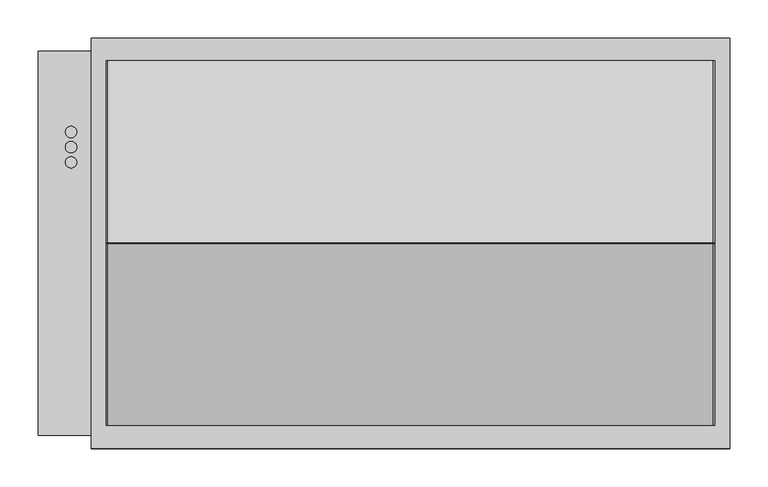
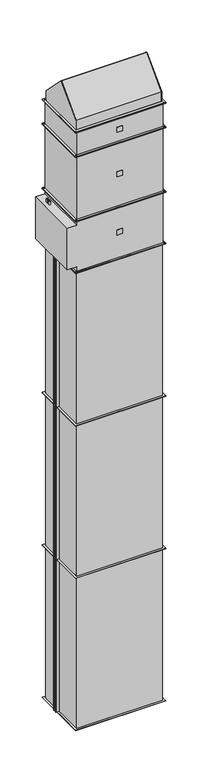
"""IFC4 building model written with IfcOpenShell, lengths in millimetres: proxy geometry, KORF_Завеса_ЭлектрическийНагрев_PWZ_C : PWZ-C 80-50 E."""

import ifcopenshell
import ifcopenshell.guid

model = None  # the IFC model being written
_history = None  # IfcOwnerHistory: only IFC2X3 demands one
_inside = {}  # id of a spatial element -> (the spatial element, [elements in it])
_under = {}  # id of a project, library or spatial element -> (it, [spatial elements below it])
_declared = {}  # id of a project -> (the project, [libraries it declares])
_typed = {}  # id of a type object -> (the type object, [elements of that type])
_made_of = {}  # id of a material, layer set ... -> (it, [elements and type objects made of it])


def new_model(schema):
    """Start an empty IFC model of exactly this schema.

    Asked for "IFC4X3", IfcOpenShell would pick the latest addendum, in which some entities
    have other attributes; the version numbers below select the first issue.
    IFC2X3 requires an IfcOwnerHistory on every rooted entity: one is made here for all.
    """
    global model, _history
    if schema == "IFC4X3":
        model = ifcopenshell.file(schema_version=(4, 3, 0, 0))
    else:
        model = ifcopenshell.file(schema=schema)
    _inside.clear()
    _under.clear()
    _declared.clear()
    _typed.clear()
    _made_of.clear()
    _history = None
    if model.schema == "IFC2X3":
        org = make("IfcOrganization", Name="unknown")
        user = make(
            "IfcPersonAndOrganization",
            ThePerson=make("IfcPerson", FamilyName="unknown"),
            TheOrganization=org,
        )
        app = make(
            "IfcApplication",
            ApplicationDeveloper=org,
            Version="unknown",
            ApplicationFullName="unknown",
            ApplicationIdentifier="unknown",
        )
        _history = make(
            "IfcOwnerHistory",
            OwningUser=user,
            OwningApplication=app,
            ChangeAction="ADDED",
            CreationDate=0,
        )
    return model


def make(cls, **values):
    """One entity of the class cls with the attributes given. An attribute that is None is left unset."""
    return model.create_entity(
        cls, **{name: value for name, value in values.items() if value is not None}
    )


def rooted(cls, **values):
    """An entity with a GlobalId (a new one), such as an element, a storey or a relation."""
    return make(cls, GlobalId=ifcopenshell.guid.new(), OwnerHistory=_history, **values)


def si_unit(unit_type, name, prefix=None):
    """IfcSIUnit, for example si_unit("LENGTHUNIT", "METRE", prefix="MILLI")."""
    return make("IfcSIUnit", UnitType=unit_type, Prefix=prefix, Name=name)


def assignment(units):
    """IfcUnitAssignment: the units of a project."""
    return None if units is None else make("IfcUnitAssignment", Units=units)


def point(xyz):
    """IfcCartesianPoint."""
    return None if xyz is None else make("IfcCartesianPoint", Coordinates=xyz)


def direction(xyz):
    """IfcDirection."""
    return None if xyz is None else make("IfcDirection", DirectionRatios=xyz)


def frame(location, z_axis=None, x_axis=None):
    """IfcAxis2Placement3D, a coordinate frame: its origin and axes. An axis left out is left unset."""
    return make(
        "IfcAxis2Placement3D",
        Location=point(location),
        Axis=direction(z_axis),
        RefDirection=direction(x_axis),
    )


def frame_2d(location, x_axis=None):
    """IfcAxis2Placement2D, a coordinate frame in the plane: its origin and x axis."""
    return make(
        "IfcAxis2Placement2D", Location=point(location), RefDirection=direction(x_axis)
    )


def origin():
    """The frame at (0, 0, 0) with its axes left unset."""
    return frame((0.0, 0.0, 0.0))


def origin_with_axes():
    """The frame at (0, 0, 0) with the z axis (0, 0, 1) and the x axis (1, 0, 0) written out."""
    return frame((0.0, 0.0, 0.0), z_axis=(0.0, 0.0, 1.0), x_axis=(1.0, 0.0, 0.0))


def place(relative_to, where):
    """IfcLocalPlacement: puts the frame where relative to a parent placement (None: the world)."""
    return make(
        "IfcLocalPlacement", PlacementRelTo=relative_to, RelativePlacement=where
    )


def context(
    kind, dimensions, precision=None, world=None, true_north=None, identifier=None
):
    """IfcGeometricRepresentationContext, for example the 3D "Model" context."""
    return make(
        "IfcGeometricRepresentationContext",
        ContextIdentifier=identifier,
        ContextType=kind,
        CoordinateSpaceDimension=dimensions,
        Precision=precision,
        WorldCoordinateSystem=world,
        TrueNorth=true_north,
    )


def project(units=None, contexts=None):
    """IfcProject with its units and contexts."""
    return rooted(
        "IfcProject",
        Name="project",
        RepresentationContexts=contexts,
        UnitsInContext=assignment(units),
    )


def spatial(cls, under=None, at=None, **own):
    """A site, building, storey or space (cls), placed at a placement, below another one or the project."""
    s = rooted(cls, ObjectPlacement=at, **own)
    if under is not None:
        _under.setdefault(under.id(), (under, []))[1].append(s)
    return s


def polyline(points):
    """IfcPolyline through the points."""
    return make("IfcPolyline", Points=[point(p) for p in points])


def circle_curve(where, radius):
    """IfcCircle in the frame where."""
    return make("IfcCircle", Position=where, Radius=radius)


def trimmed(basis, trim1, trim2, sense, master):
    """IfcTrimmedCurve: the piece of a basis curve between two trims."""
    return make(
        "IfcTrimmedCurve",
        BasisCurve=basis,
        Trim1=trim1,
        Trim2=trim2,
        SenseAgreement=sense,
        MasterRepresentation=master,
    )


def segment(curve, same_sense, transition):
    """IfcCompositeCurveSegment."""
    return make(
        "IfcCompositeCurveSegment",
        Transition=transition,
        SameSense=same_sense,
        ParentCurve=curve,
    )


def composite_curve(segments, self_intersect=None):
    """IfcCompositeCurve: segments joined end to end."""
    return make("IfcCompositeCurve", Segments=segments, SelfIntersect=self_intersect)


def outline(outer, holes=None, kind="AREA"):
    """IfcArbitraryClosedProfileDef: a profile drawn as a closed curve; with holes, ...WithVoids."""
    if holes is None:
        return make("IfcArbitraryClosedProfileDef", ProfileType=kind, OuterCurve=outer)
    return make(
        "IfcArbitraryProfileDefWithVoids",
        ProfileType=kind,
        OuterCurve=outer,
        InnerCurves=holes,
    )


def extrude(swept, where, along, depth):
    """IfcExtrudedAreaSolid: the profile swept, set in the frame where, extruded along a direction by depth."""
    return make(
        "IfcExtrudedAreaSolid",
        SweptArea=swept,
        Position=where,
        ExtrudedDirection=direction(along),
        Depth=depth,
    )


def shape(context_of_items, identifier, shape_type, items):
    """IfcShapeRepresentation: the items that make up one representation, for example the "Body"."""
    return make(
        "IfcShapeRepresentation",
        ContextOfItems=context_of_items,
        RepresentationIdentifier=identifier,
        RepresentationType=shape_type,
        Items=items,
    )


def source(mapping_origin, context_of_items, identifier, shape_type, items):
    """IfcRepresentationMap: a shape defined once, which mapped items show again and again."""
    return make(
        "IfcRepresentationMap",
        MappingOrigin=mapping_origin,
        MappedRepresentation=shape(context_of_items, identifier, shape_type, items),
    )


def transform(
    local_origin,
    x_axis=None,
    y_axis=None,
    z_axis=None,
    scale=None,
    scale2=None,
    scale3=None,
    uniform=True,
):
    """IfcCartesianTransformationOperator3D, or its non-uniform kind. x_axis, y_axis, z_axis: its Axis1, 2, 3."""
    if uniform:
        return make(
            "IfcCartesianTransformationOperator3D",
            Axis1=direction(x_axis),
            Axis2=direction(y_axis),
            LocalOrigin=point(local_origin),
            Scale=scale,
            Axis3=direction(z_axis),
        )
    return make(
        "IfcCartesianTransformationOperator3DnonUniform",
        Axis1=direction(x_axis),
        Axis2=direction(y_axis),
        LocalOrigin=point(local_origin),
        Scale=scale,
        Axis3=direction(z_axis),
        Scale2=scale2,
        Scale3=scale3,
    )


def mapped(mapping_source, mapping_target):
    """IfcMappedItem: shows the shape of a source again, moved by a transform."""
    return make(
        "IfcMappedItem", MappingSource=mapping_source, MappingTarget=mapping_target
    )


def made_of(thing, what):
    """Note that an element or type object is made of a material, layer set ...; save() writes the relation."""
    if what is not None:
        _made_of.setdefault(what.id(), (what, []))[1].append(thing)
    return thing


def element(
    cls,
    number,
    at=None,
    inside=None,
    cuts=None,
    type_object=None,
    material=None,
    context=None,
    identifier="Body",
    shape_type=None,
    held_by="IfcProductDefinitionShape",
    body=None,
    shapes=None,
    **own,
):
    """One element of the class cls, such as IfcWall. Its Tag is "e" and its number.

    at: its placement. inside: the storey or other place that contains it. cuts: it is an
    opening in that element (IfcRelVoidsElement). A single representation is given by context,
    identifier, shape_type and body (its items); several are given by shapes. held_by: the class
    of the entity that holds the representations. save() writes the other relations.
    """
    e = rooted(cls, Tag="e%d" % number, ObjectPlacement=at, **own)
    if body is not None:
        shapes = [shape(context, identifier, shape_type, body)]
    if shapes is not None:
        e.Representation = make(held_by, Representations=shapes)
    if inside is not None:
        _inside.setdefault(inside.id(), (inside, []))[1].append(e)
    if cuts is not None:
        rooted(
            "IfcRelVoidsElement", RelatingBuildingElement=cuts, RelatedOpeningElement=e
        )
    if type_object is not None:
        _typed.setdefault(type_object.id(), (type_object, []))[1].append(e)
    return made_of(e, material)


def aggregate(whole, parts):
    """IfcRelAggregates: a whole, such as a stair, and the parts it consists of."""
    return rooted("IfcRelAggregates", RelatingObject=whole, RelatedObjects=parts)


def save(model, path):
    """Write the relations noted so far, then the file.

    IfcRelAggregates (storeys below a building ...), IfcRelContainedInSpatialStructure (elements
    in a storey), IfcRelDefinesByType, IfcRelAssociatesMaterial and IfcRelDeclares: one each for
    every whole, place, type object, material and project.
    """
    for whole, parts in _under.values():
        aggregate(whole, parts)
    for where, things in _inside.values():
        rooted(
            "IfcRelContainedInSpatialStructure",
            RelatedElements=things,
            RelatingStructure=where,
        )
    for kind, things in _typed.values():
        rooted("IfcRelDefinesByType", RelatedObjects=things, RelatingType=kind)
    for what, things in _made_of.values():
        rooted("IfcRelAssociatesMaterial", RelatedObjects=things, RelatingMaterial=what)
    for by, libraries in _declared.values():
        rooted("IfcRelDeclares", RelatingContext=by, RelatedDefinitions=libraries)
    model.write(path)


def mechanical_equipment_f1a6d064(model_context):
    return source(origin(), model_context, "Body", "SweptSolid", [
        extrude(outline(polyline([(25.0, -255.0), (-25.0, -255.0), (-25.0, -253.0), (25.0, -253.0), (25.0, -255.0)])), frame((0.0, 0.0, 4730.0), z_axis=(0.0, 0.0, 1.0), x_axis=(1.0, 0.0, 0.0)), (0.0, 0.0, 1.0), 50.0),
        extrude(outline(composite_curve([segment(trimmed(circle_curve(frame_2d((-446.5, 126.5)), 7.5), [point((-439.0, 126.5))], [point((-454.0, 126.5))], False, "CARTESIAN"), True, "CONTINUOUS"), segment(trimmed(circle_curve(frame_2d((-446.5, 126.5)), 7.5), [point((-454.0, 126.5))], [point((-439.0, 126.5))], False, "CARTESIAN"), True, "CONTINUOUS")], self_intersect=False)), frame((0.0, 0.0, 4960.0), z_axis=(0.0, 0.0, 1.0), x_axis=(1.0, 0.0, 0.0)), (0.0, 0.0, 1.0), 30.0),
        extrude(outline(composite_curve([segment(trimmed(circle_curve(frame_2d((-446.5, 106.5)), 7.5), [point((-439.0, 106.5))], [point((-454.0, 106.5))], False, "CARTESIAN"), True, "CONTINUOUS"), segment(trimmed(circle_curve(frame_2d((-446.5, 106.5)), 7.5), [point((-454.0, 106.5))], [point((-439.0, 106.5))], False, "CARTESIAN"), True, "CONTINUOUS")], self_intersect=False)), frame((0.0, 0.0, 4960.0), z_axis=(0.0, 0.0, 1.0), x_axis=(1.0, 0.0, 0.0)), (0.0, 0.0, 1.0), 30.0),
        extrude(outline(composite_curve([segment(trimmed(circle_curve(frame_2d((-446.5, 146.5)), 7.5), [point((-439.0, 146.5))], [point((-454.0, 146.5))], False, "CARTESIAN"), True, "CONTINUOUS"), segment(trimmed(circle_curve(frame_2d((-446.5, 146.5)), 7.5), [point((-454.0, 146.5))], [point((-439.0, 146.5))], False, "CARTESIAN"), True, "CONTINUOUS")], self_intersect=False)), frame((0.0, 0.0, 4960.0), z_axis=(0.0, 0.0, 1.0), x_axis=(1.0, 0.0, 0.0)), (0.0, 0.0, 1.0), 30.0),
        extrude(outline(polyline([(-146.5, 4730.0), (-134.0, 4730.0), (-134.0, 4805.0), (-119.0, 4805.0), (-119.0, 4730.0), (-106.5, 4730.0), (-126.5, 4705.0), (-146.5, 4730.0)])), frame((403.0, 0.0, 0.0), z_axis=(1.0, 0.0, 0.0), x_axis=(0.0, 1.0, 0.0)), (0.0, 0.0, 1.0), 1.0),
        extrude(outline(polyline([(5005.0, 403.0), (5005.0, -403.0), (4960.0, -403.0), (4960.0, -490.0), (4550.0, -490.0), (4550.0, -403.0), (4505.0, -403.0), (4505.0, 403.0), (5005.0, 403.0)])), frame((0.0, -253.0, 0.0), z_axis=(0.0, 1.0, 0.0), x_axis=(0.0, 0.0, 1.0)), (0.0, 0.0, 1.0), 506.0),
        extrude(outline(polyline([(420.0, -270.0), (-420.0, -270.0), (-420.0, 270.0), (420.0, 270.0), (420.0, -270.0)]), holes=[polyline([(400.0, -250.0), (400.0, 250.0), (-400.0, 250.0), (-400.0, -250.0), (400.0, -250.0)]), composite_curve([segment(trimmed(circle_curve(frame_2d((-410.0, -260.0)), 4.5), [point((-405.5, -260.0))], [point((-414.5, -260.0))], True, "CARTESIAN"), True, "CONTINUOUS"), segment(trimmed(circle_curve(frame_2d((-410.0, -260.0)), 4.5), [point((-414.5, -260.0))], [point((-405.5, -260.0))], True, "CARTESIAN"), True, "CONTINUOUS")], self_intersect=False), composite_curve([segment(trimmed(circle_curve(frame_2d((410.0, -260.0)), 4.5), [point((414.5, -260.0))], [point((405.5, -260.0))], True, "CARTESIAN"), True, "CONTINUOUS"), segment(trimmed(circle_curve(frame_2d((410.0, -260.0)), 4.5), [point((405.5, -260.0))], [point((414.5, -260.0))], True, "CARTESIAN"), True, "CONTINUOUS")], self_intersect=False), composite_curve([segment(trimmed(circle_curve(frame_2d((410.0, 260.0)), 4.5), [point((414.5, 260.0))], [point((405.5, 260.0))], True, "CARTESIAN"), True, "CONTINUOUS"), segment(trimmed(circle_curve(frame_2d((410.0, 260.0)), 4.5), [point((405.5, 260.0))], [point((414.5, 260.0))], True, "CARTESIAN"), True, "CONTINUOUS")], self_intersect=False), composite_curve([segment(trimmed(circle_curve(frame_2d((-410.0, 260.0)), 4.5), [point((-405.5, 260.0))], [point((-414.5, 260.0))], True, "CARTESIAN"), True, "CONTINUOUS"), segment(trimmed(circle_curve(frame_2d((-410.0, 260.0)), 4.5), [point((-414.5, 260.0))], [point((-405.5, 260.0))], True, "CARTESIAN"), True, "CONTINUOUS")], self_intersect=False)]), frame((0.0, 0.0, 5005.0), z_axis=(0.0, 0.0, 1.0), x_axis=(1.0, 0.0, 0.0)), (0.0, 0.0, 1.0), 5.0),
        extrude(outline(polyline([(420.0, -270.0), (-420.0, -270.0), (-420.0, 270.0), (420.0, 270.0), (420.0, -270.0)]), holes=[polyline([(400.0, -250.0), (400.0, 250.0), (-400.0, 250.0), (-400.0, -250.0), (400.0, -250.0)]), composite_curve([segment(trimmed(circle_curve(frame_2d((-410.0, -260.0)), 4.5), [point((-405.5, -260.0))], [point((-414.5, -260.0))], True, "CARTESIAN"), True, "CONTINUOUS"), segment(trimmed(circle_curve(frame_2d((-410.0, -260.0)), 4.5), [point((-414.5, -260.0))], [point((-405.5, -260.0))], True, "CARTESIAN"), True, "CONTINUOUS")], self_intersect=False), composite_curve([segment(trimmed(circle_curve(frame_2d((410.0, -260.0)), 4.5), [point((414.5, -260.0))], [point((405.5, -260.0))], True, "CARTESIAN"), True, "CONTINUOUS"), segment(trimmed(circle_curve(frame_2d((410.0, -260.0)), 4.5), [point((405.5, -260.0))], [point((414.5, -260.0))], True, "CARTESIAN"), True, "CONTINUOUS")], self_intersect=False), composite_curve([segment(trimmed(circle_curve(frame_2d((410.0, 260.0)), 4.5), [point((414.5, 260.0))], [point((405.5, 260.0))], True, "CARTESIAN"), True, "CONTINUOUS"), segment(trimmed(circle_curve(frame_2d((410.0, 260.0)), 4.5), [point((405.5, 260.0))], [point((414.5, 260.0))], True, "CARTESIAN"), True, "CONTINUOUS")], self_intersect=False), composite_curve([segment(trimmed(circle_curve(frame_2d((-410.0, 260.0)), 4.5), [point((-405.5, 260.0))], [point((-414.5, 260.0))], True, "CARTESIAN"), True, "CONTINUOUS"), segment(trimmed(circle_curve(frame_2d((-410.0, 260.0)), 4.5), [point((-414.5, 260.0))], [point((-405.5, 260.0))], True, "CARTESIAN"), True, "CONTINUOUS")], self_intersect=False)]), frame((0.0, 0.0, 4500.0), z_axis=(0.0, 0.0, 1.0), x_axis=(1.0, 0.0, 0.0)), (0.0, 0.0, 1.0), 5.0),
        extrude(outline(polyline([(25.0, -255.0), (-25.0, -255.0), (-25.0, -253.0), (25.0, -253.0), (25.0, -255.0)])), frame((0.0, 0.0, 5741.0), z_axis=(0.0, 0.0, 1.0), x_axis=(1.0, 0.0, 0.0)), (0.0, 0.0, 1.0), 50.0),
        extrude(outline(polyline([(-420.0, -270.0), (-420.0, 270.0), (420.0, 270.0), (420.0, -270.0), (-420.0, -270.0)]), holes=[polyline([(-400.0, -250.0), (400.0, -250.0), (400.0, 250.0), (-400.0, 250.0), (-400.0, -250.0)]), composite_curve([segment(trimmed(circle_curve(frame_2d((410.0, -260.0)), 4.5), [point((414.5, -260.0))], [point((405.5, -260.0))], True, "CARTESIAN"), True, "CONTINUOUS"), segment(trimmed(circle_curve(frame_2d((410.0, -260.0)), 4.5), [point((405.5, -260.0))], [point((414.5, -260.0))], True, "CARTESIAN"), True, "CONTINUOUS")], self_intersect=False), composite_curve([segment(trimmed(circle_curve(frame_2d((-410.0, -260.0)), 4.5), [point((-405.5, -260.0))], [point((-414.5, -260.0))], True, "CARTESIAN"), True, "CONTINUOUS"), segment(trimmed(circle_curve(frame_2d((-410.0, -260.0)), 4.5), [point((-414.5, -260.0))], [point((-405.5, -260.0))], True, "CARTESIAN"), True, "CONTINUOUS")], self_intersect=False), composite_curve([segment(trimmed(circle_curve(frame_2d((-410.0, 260.0)), 4.5), [point((-405.5, 260.0))], [point((-414.5, 260.0))], True, "CARTESIAN"), True, "CONTINUOUS"), segment(trimmed(circle_curve(frame_2d((-410.0, 260.0)), 4.5), [point((-414.5, 260.0))], [point((-405.5, 260.0))], True, "CARTESIAN"), True, "CONTINUOUS")], self_intersect=False), composite_curve([segment(trimmed(circle_curve(frame_2d((410.0, 260.0)), 4.5), [point((414.5, 260.0))], [point((405.5, 260.0))], True, "CARTESIAN"), True, "CONTINUOUS"), segment(trimmed(circle_curve(frame_2d((410.0, 260.0)), 4.5), [point((405.5, 260.0))], [point((414.5, 260.0))], True, "CARTESIAN"), True, "CONTINUOUS")], self_intersect=False)]), frame((0.0, 0.0, 5645.0), z_axis=(0.0, 0.0, 1.0), x_axis=(1.0, 0.0, 0.0)), (0.0, 0.0, 1.0), 5.0),
        extrude(outline(polyline([(-420.0, -270.0), (-420.0, 270.0), (420.0, 270.0), (420.0, -270.0), (-420.0, -270.0)]), holes=[polyline([(-400.0, -250.0), (400.0, -250.0), (400.0, 250.0), (-400.0, 250.0), (-400.0, -250.0)]), composite_curve([segment(trimmed(circle_curve(frame_2d((410.0, -260.0)), 4.5), [point((414.5, -260.0))], [point((405.5, -260.0))], True, "CARTESIAN"), True, "CONTINUOUS"), segment(trimmed(circle_curve(frame_2d((410.0, -260.0)), 4.5), [point((405.5, -260.0))], [point((414.5, -260.0))], True, "CARTESIAN"), True, "CONTINUOUS")], self_intersect=False), composite_curve([segment(trimmed(circle_curve(frame_2d((-410.0, -260.0)), 4.5), [point((-405.5, -260.0))], [point((-414.5, -260.0))], True, "CARTESIAN"), True, "CONTINUOUS"), segment(trimmed(circle_curve(frame_2d((-410.0, -260.0)), 4.5), [point((-414.5, -260.0))], [point((-405.5, -260.0))], True, "CARTESIAN"), True, "CONTINUOUS")], self_intersect=False), composite_curve([segment(trimmed(circle_curve(frame_2d((-410.0, 260.0)), 4.5), [point((-405.5, 260.0))], [point((-414.5, 260.0))], True, "CARTESIAN"), True, "CONTINUOUS"), segment(trimmed(circle_curve(frame_2d((-410.0, 260.0)), 4.5), [point((-414.5, 260.0))], [point((-405.5, 260.0))], True, "CARTESIAN"), True, "CONTINUOUS")], self_intersect=False), composite_curve([segment(trimmed(circle_curve(frame_2d((410.0, 260.0)), 4.5), [point((414.5, 260.0))], [point((405.5, 260.0))], True, "CARTESIAN"), True, "CONTINUOUS"), segment(trimmed(circle_curve(frame_2d((410.0, 260.0)), 4.5), [point((405.5, 260.0))], [point((414.5, 260.0))], True, "CARTESIAN"), True, "CONTINUOUS")], self_intersect=False)]), frame((0.0, 0.0, 5882.0), z_axis=(0.0, 0.0, 1.0), x_axis=(1.0, 0.0, 0.0)), (0.0, 0.0, 1.0), 5.0),
        extrude(outline(polyline([(-403.0, -253.0), (-403.0, 253.0), (403.0, 253.0), (403.0, -253.0), (-403.0, -253.0)])), frame((0.0, 0.0, 5650.0), z_axis=(0.0, 0.0, 1.0), x_axis=(1.0, 0.0, 0.0)), (0.0, 0.0, 1.0), 232.0),
        extrude(outline(polyline([(25.0, -255.0), (-25.0, -255.0), (-25.0, -253.0), (25.0, -253.0), (25.0, -255.0)])), frame((0.0, 0.0, 5302.5), z_axis=(0.0, 0.0, 1.0), x_axis=(1.0, 0.0, 0.0)), (0.0, 0.0, 1.0), 50.0),
        extrude(outline(polyline([(420.0, -270.0), (-420.0, -270.0), (-420.0, 270.0), (420.0, 270.0), (420.0, -270.0)]), holes=[polyline([(400.0, -250.0), (400.0, 250.0), (-400.0, 250.0), (-400.0, -250.0), (400.0, -250.0)]), composite_curve([segment(trimmed(circle_curve(frame_2d((-410.0, -260.0)), 4.5), [point((-405.5, -260.0))], [point((-414.5, -260.0))], True, "CARTESIAN"), True, "CONTINUOUS"), segment(trimmed(circle_curve(frame_2d((-410.0, -260.0)), 4.5), [point((-414.5, -260.0))], [point((-405.5, -260.0))], True, "CARTESIAN"), True, "CONTINUOUS")], self_intersect=False), composite_curve([segment(trimmed(circle_curve(frame_2d((410.0, -260.0)), 4.5), [point((414.5, -260.0))], [point((405.5, -260.0))], True, "CARTESIAN"), True, "CONTINUOUS"), segment(trimmed(circle_curve(frame_2d((410.0, -260.0)), 4.5), [point((405.5, -260.0))], [point((414.5, -260.0))], True, "CARTESIAN"), True, "CONTINUOUS")], self_intersect=False), composite_curve([segment(trimmed(circle_curve(frame_2d((410.0, 260.0)), 4.5), [point((414.5, 260.0))], [point((405.5, 260.0))], True, "CARTESIAN"), True, "CONTINUOUS"), segment(trimmed(circle_curve(frame_2d((410.0, 260.0)), 4.5), [point((405.5, 260.0))], [point((414.5, 260.0))], True, "CARTESIAN"), True, "CONTINUOUS")], self_intersect=False), composite_curve([segment(trimmed(circle_curve(frame_2d((-410.0, 260.0)), 4.5), [point((-405.5, 260.0))], [point((-414.5, 260.0))], True, "CARTESIAN"), True, "CONTINUOUS"), segment(trimmed(circle_curve(frame_2d((-410.0, 260.0)), 4.5), [point((-414.5, 260.0))], [point((-405.5, 260.0))], True, "CARTESIAN"), True, "CONTINUOUS")], self_intersect=False)]), frame((0.0, 0.0, 5640.0), z_axis=(0.0, 0.0, 1.0), x_axis=(1.0, 0.0, 0.0)), (0.0, 0.0, 1.0), 5.0),
        extrude(outline(polyline([(420.0, -270.0), (-420.0, -270.0), (-420.0, 270.0), (420.0, 270.0), (420.0, -270.0)]), holes=[polyline([(400.0, -250.0), (400.0, 250.0), (-400.0, 250.0), (-400.0, -250.0), (400.0, -250.0)]), composite_curve([segment(trimmed(circle_curve(frame_2d((-410.0, -260.0)), 4.5), [point((-405.5, -260.0))], [point((-414.5, -260.0))], True, "CARTESIAN"), True, "CONTINUOUS"), segment(trimmed(circle_curve(frame_2d((-410.0, -260.0)), 4.5), [point((-414.5, -260.0))], [point((-405.5, -260.0))], True, "CARTESIAN"), True, "CONTINUOUS")], self_intersect=False), composite_curve([segment(trimmed(circle_curve(frame_2d((410.0, -260.0)), 4.5), [point((414.5, -260.0))], [point((405.5, -260.0))], True, "CARTESIAN"), True, "CONTINUOUS"), segment(trimmed(circle_curve(frame_2d((410.0, -260.0)), 4.5), [point((405.5, -260.0))], [point((414.5, -260.0))], True, "CARTESIAN"), True, "CONTINUOUS")], self_intersect=False), composite_curve([segment(trimmed(circle_curve(frame_2d((410.0, 260.0)), 4.5), [point((414.5, 260.0))], [point((405.5, 260.0))], True, "CARTESIAN"), True, "CONTINUOUS"), segment(trimmed(circle_curve(frame_2d((410.0, 260.0)), 4.5), [point((405.5, 260.0))], [point((414.5, 260.0))], True, "CARTESIAN"), True, "CONTINUOUS")], self_intersect=False), composite_curve([segment(trimmed(circle_curve(frame_2d((-410.0, 260.0)), 4.5), [point((-405.5, 260.0))], [point((-414.5, 260.0))], True, "CARTESIAN"), True, "CONTINUOUS"), segment(trimmed(circle_curve(frame_2d((-410.0, 260.0)), 4.5), [point((-414.5, 260.0))], [point((-405.5, 260.0))], True, "CARTESIAN"), True, "CONTINUOUS")], self_intersect=False)]), frame((0.0, 0.0, 5010.0), z_axis=(0.0, 0.0, 1.0), x_axis=(1.0, 0.0, 0.0)), (0.0, 0.0, 1.0), 5.0),
        extrude(outline(polyline([(403.0, -253.0), (-403.0, -253.0), (-403.0, 253.0), (403.0, 253.0), (403.0, -253.0)])), frame((0.0, 0.0, 5015.0), z_axis=(0.0, 0.0, 1.0), x_axis=(1.0, 0.0, 0.0)), (0.0, 0.0, 1.0), 625.0),
        extrude(outline(polyline([(400.0, 250.0), (400.0, -250.0), (-400.0, -250.0), (-400.0, 250.0), (400.0, 250.0)])), frame((0.0, 0.0, 3000.0), z_axis=(0.0, 0.0, 1.0), x_axis=(1.0, 0.0, 0.0)), (0.0, 0.0, 1.0), 1500.0),
        extrude(outline(polyline([(-428.0, 62.5), (-400.0, 62.5), (-400.0, 33.5), (-428.0, 33.5), (-428.0, 62.5)])), frame((0.0, 0.0, 3002.0), z_axis=(0.0, 0.0, 1.0), x_axis=(1.0, 0.0, 0.0)), (0.0, 0.0, 1.0), 1496.0),
        extrude(outline(polyline([(-432.0, 66.5), (-400.0, 66.5), (-400.0, 64.5), (-432.0, 64.5), (-432.0, 66.5)])), frame((0.0, 0.0, 3002.0), z_axis=(0.0, 0.0, 1.0), x_axis=(1.0, 0.0, 0.0)), (0.0, 0.0, 1.0), 1496.0),
        extrude(outline(polyline([(-432.0, 29.5), (-432.0, 31.5), (-400.0, 31.5), (-400.0, 29.5), (-432.0, 29.5)])), frame((0.0, 0.0, 3002.0), z_axis=(0.0, 0.0, 1.0), x_axis=(1.0, 0.0, 0.0)), (0.0, 0.0, 1.0), 1496.0),
        extrude(outline(polyline([(420.0, 270.0), (420.0, -270.0), (-420.0, -270.0), (-420.0, 270.0), (420.0, 270.0)]), holes=[polyline([(400.0, 250.0), (-400.0, 250.0), (-400.0, -250.0), (400.0, -250.0), (400.0, 250.0)])]), frame((0.0, 0.0, 4498.0), z_axis=(0.0, 0.0, 1.0), x_axis=(1.0, 0.0, 0.0)), (0.0, 0.0, 1.0), 2.0),
        extrude(outline(polyline([(420.0, 270.0), (420.0, -270.0), (-420.0, -270.0), (-420.0, 270.0), (420.0, 270.0)]), holes=[polyline([(400.0, 250.0), (-400.0, 250.0), (-400.0, -250.0), (400.0, -250.0), (400.0, 250.0)])]), frame((0.0, 0.0, 3000.0), z_axis=(0.0, 0.0, 1.0), x_axis=(1.0, 0.0, 0.0)), (0.0, 0.0, 1.0), 2.0),
        extrude(outline(polyline([(400.0, 250.0), (400.0, -250.0), (-400.0, -250.0), (-400.0, 250.0), (400.0, 250.0)])), frame((0.0, 0.0, 1500.0), z_axis=(0.0, 0.0, 1.0), x_axis=(1.0, 0.0, 0.0)), (0.0, 0.0, 1.0), 1500.0),
        extrude(outline(polyline([(-428.0, 62.5), (-400.0, 62.5), (-400.0, 33.5), (-428.0, 33.5), (-428.0, 62.5)])), frame((0.0, 0.0, 1502.0), z_axis=(0.0, 0.0, 1.0), x_axis=(1.0, 0.0, 0.0)), (0.0, 0.0, 1.0), 1496.0),
        extrude(outline(polyline([(-432.0, 66.5), (-400.0, 66.5), (-400.0, 64.5), (-432.0, 64.5), (-432.0, 66.5)])), frame((0.0, 0.0, 1502.0), z_axis=(0.0, 0.0, 1.0), x_axis=(1.0, 0.0, 0.0)), (0.0, 0.0, 1.0), 1496.0),
        extrude(outline(polyline([(-432.0, 29.5), (-432.0, 31.5), (-400.0, 31.5), (-400.0, 29.5), (-432.0, 29.5)])), frame((0.0, 0.0, 1502.0), z_axis=(0.0, 0.0, 1.0), x_axis=(1.0, 0.0, 0.0)), (0.0, 0.0, 1.0), 1496.0),
        extrude(outline(polyline([(420.0, 270.0), (420.0, -270.0), (-420.0, -270.0), (-420.0, 270.0), (420.0, 270.0)]), holes=[polyline([(400.0, 250.0), (-400.0, 250.0), (-400.0, -250.0), (400.0, -250.0), (400.0, 250.0)])]), frame((0.0, 0.0, 2998.0), z_axis=(0.0, 0.0, 1.0), x_axis=(1.0, 0.0, 0.0)), (0.0, 0.0, 1.0), 2.0),
        extrude(outline(polyline([(420.0, 270.0), (420.0, -270.0), (-420.0, -270.0), (-420.0, 270.0), (420.0, 270.0)]), holes=[polyline([(400.0, 250.0), (-400.0, 250.0), (-400.0, -250.0), (400.0, -250.0), (400.0, 250.0)])]), frame((0.0, 0.0, 1500.0), z_axis=(0.0, 0.0, 1.0), x_axis=(1.0, 0.0, 0.0)), (0.0, 0.0, 1.0), 2.0),
        extrude(outline(polyline([(400.0, 250.0), (400.0, -250.0), (-400.0, -250.0), (-400.0, 250.0), (400.0, 250.0)])), origin_with_axes(), (0.0, 0.0, 1.0), 1500.0),
        extrude(outline(polyline([(-428.0, 62.5), (-400.0, 62.5), (-400.0, 33.5), (-428.0, 33.5), (-428.0, 62.5)])), frame((0.0, 0.0, 2.0), z_axis=(0.0, 0.0, 1.0), x_axis=(1.0, 0.0, 0.0)), (0.0, 0.0, 1.0), 1496.0),
        extrude(outline(polyline([(-432.0, 66.5), (-400.0, 66.5), (-400.0, 64.5), (-432.0, 64.5), (-432.0, 66.5)])), frame((0.0, 0.0, 2.0), z_axis=(0.0, 0.0, 1.0), x_axis=(1.0, 0.0, 0.0)), (0.0, 0.0, 1.0), 1496.0),
        extrude(outline(polyline([(-432.0, 29.5), (-432.0, 31.5), (-400.0, 31.5), (-400.0, 29.5), (-432.0, 29.5)])), frame((0.0, 0.0, 2.0), z_axis=(0.0, 0.0, 1.0), x_axis=(1.0, 0.0, 0.0)), (0.0, 0.0, 1.0), 1496.0),
        extrude(outline(polyline([(420.0, 270.0), (420.0, -270.0), (-420.0, -270.0), (-420.0, 270.0), (420.0, 270.0)]), holes=[polyline([(400.0, 250.0), (-400.0, 250.0), (-400.0, -250.0), (400.0, -250.0), (400.0, 250.0)])]), frame((0.0, 0.0, 1498.0), z_axis=(0.0, 0.0, 1.0), x_axis=(1.0, 0.0, 0.0)), (0.0, 0.0, 1.0), 2.0),
        extrude(outline(polyline([(420.0, 270.0), (420.0, -270.0), (-420.0, -270.0), (-420.0, 270.0), (420.0, 270.0)]), holes=[polyline([(400.0, 250.0), (-400.0, 250.0), (-400.0, -250.0), (400.0, -250.0), (400.0, 250.0)])]), origin_with_axes(), (0.0, 0.0, 1.0), 2.0),
        extrude(outline(composite_curve([segment(polyline([(240.0, 5984.1428571), (240.0, 5889.0), (-240.0, 5889.0), (-240.0, 5984.1428571), (-0.6395979, 6226.3786763)]), True, "CONTINUOUS"), segment(trimmed(circle_curve(frame_2d((0.0, 6225.7202668)), 0.9179263), [point((-0.6395979, 6226.3786763))], [point((0.6395979, 6226.3786763))], False, "CARTESIAN"), True, "CONTINUOUS"), segment(polyline([(0.6395979, 6226.3786763), (240.0, 5984.1428571)]), True, "CONTINUOUS")], self_intersect=False)), frame((398.0, 0.0, 0.0), z_axis=(1.0, 0.0, 0.0), x_axis=(0.0, 1.0, 0.0)), (0.0, 0.0, 1.0), 2.0),
        extrude(outline(composite_curve([segment(polyline([(240.0, 5984.1428571), (240.0, 5889.0), (-240.0, 5889.0), (-240.0, 5984.1428571), (-0.6395979, 6226.3786763)]), True, "CONTINUOUS"), segment(trimmed(circle_curve(frame_2d((0.0, 6225.7202668)), 0.9179263), [point((-0.6395979, 6226.3786763))], [point((0.6395979, 6226.3786763))], False, "CARTESIAN"), True, "CONTINUOUS"), segment(polyline([(0.6395979, 6226.3786763), (240.0, 5984.1428571)]), True, "CONTINUOUS")], self_intersect=False)), frame((-398.0, 0.0, 0.0), z_axis=(1.0, 0.0, 0.0), x_axis=(0.0, 1.0, 0.0)), (0.0, 0.0, 1.0), 796.0),
        extrude(outline(composite_curve([segment(polyline([(240.0, 5984.1428571), (240.0, 5889.0), (-240.0, 5889.0), (-240.0, 5984.1428571), (-0.6395979, 6226.3786763)]), True, "CONTINUOUS"), segment(trimmed(circle_curve(frame_2d((0.0, 6225.7202668)), 0.9179263), [point((-0.6395979, 6226.3786763))], [point((0.6395979, 6226.3786763))], False, "CARTESIAN"), True, "CONTINUOUS"), segment(polyline([(0.6395979, 6226.3786763), (240.0, 5984.1428571)]), True, "CONTINUOUS")], self_intersect=False)), frame((-400.0, 0.0, 0.0), z_axis=(1.0, 0.0, 0.0), x_axis=(0.0, 1.0, 0.0)), (0.0, 0.0, 1.0), 2.0),
        extrude(outline(polyline([(420.0, 270.0), (420.0, -270.0), (-420.0, -270.0), (-420.0, 270.0), (420.0, 270.0)]), holes=[polyline([(-400.0, 240.0), (-400.0, -240.0), (400.0, -240.0), (400.0, 240.0), (-400.0, 240.0)])]), frame((0.0, 0.0, 5887.0), z_axis=(0.0, 0.0, 1.0), x_axis=(1.0, 0.0, 0.0)), (0.0, 0.0, 1.0), 2.0),
    ])


if __name__ == "__main__":
    model = new_model("IFC4")
    model_context = context("Model", 3, world=origin())
    ifc_project = project(units=[si_unit("LENGTHUNIT", "METRE", prefix="MILLI")], contexts=[model_context])
    site = spatial("IfcSite", under=ifc_project)
    building = spatial("IfcBuilding", under=site)
    placement = place(None, origin())
    mechanical_equipment_shape = mechanical_equipment_f1a6d064(model_context)
    element("IfcBuildingElementProxy", 1, Name="KORF_Завеса_ЭлектрическийНагрев_PWZ_C : PWZ-C 80-50 E", ObjectType="KORF_Завеса_ЭлектрическийНагрев_PWZ_C : PWZ-C 80-50 E", at=placement, inside=building, context=model_context, shape_type="MappedRepresentation", body=[
        mapped(mechanical_equipment_shape, transform((0.0, 0.0, 0.0), x_axis=(1.0, 0.0, 0.0), y_axis=(0.0, 1.0, 0.0), z_axis=(0.0, 0.0, 1.0))),
    ])
    save(model, "model.ifc")
